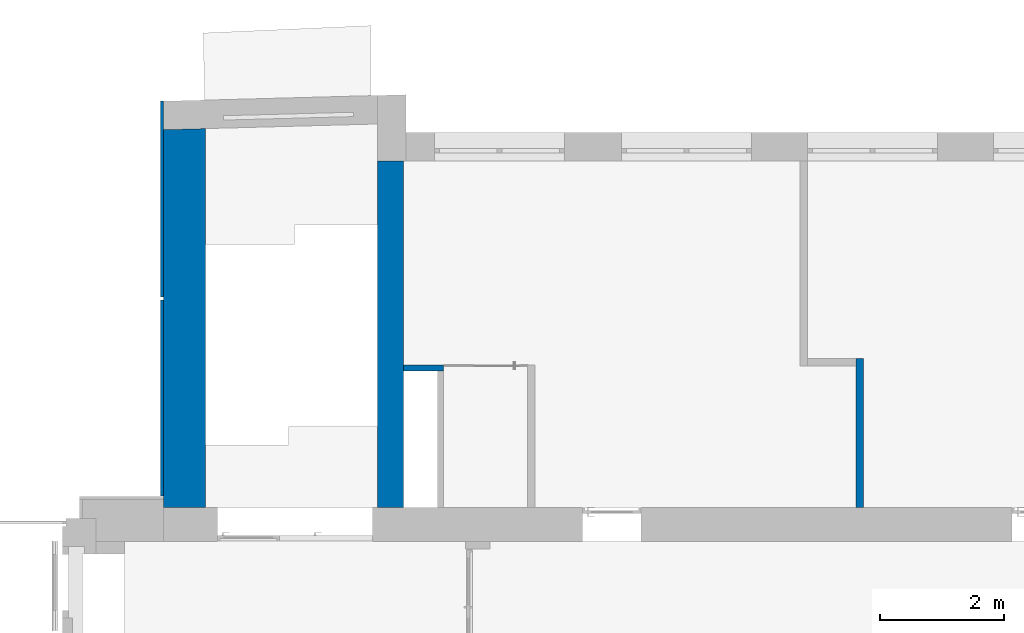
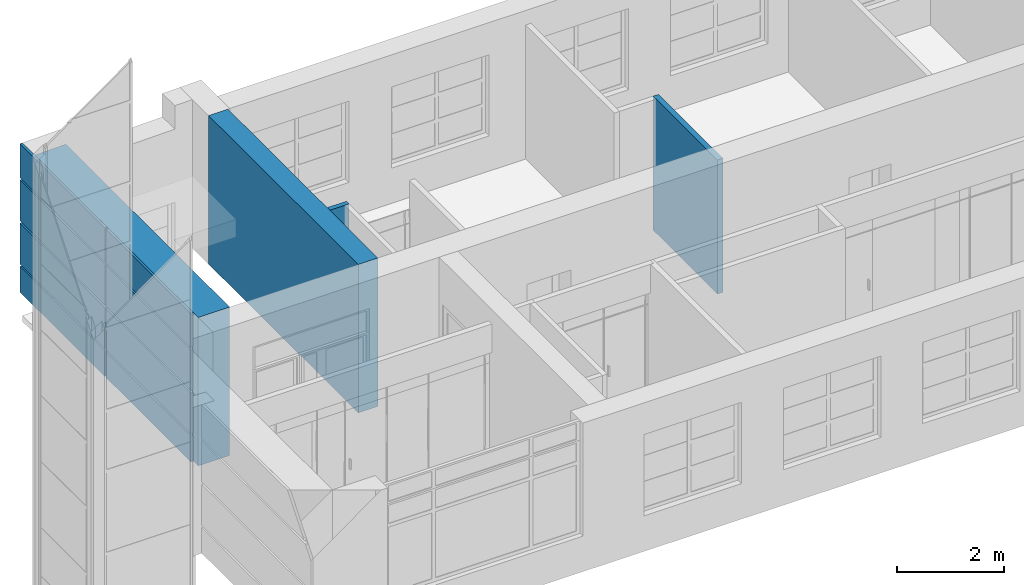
# One storey, part 44 of 66: 5 walls.
"""IFC2X3 building model written with IfcOpenShell, lengths in millimetres."""

from ifc_helpers import new_model, entity, si_unit, converted_unit, derived_unit, direction, frame, frame_2d, origin, origin_2d_with_axis, place, context, subcontext, project, spatial, polyline, rectangle, outline, extrude, clip, bounded_halfspace, material, layer, layer_set, layer_usage, type_object, element, save


model = new_model("IFC2X3")

# Units and contexts
model_context = context("Model", 3, precision=0.01, world=origin(), true_north=direction((6.12303176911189e-17, 1.0)))
body_context = subcontext(model_context, "Body", "Model", "MODEL_VIEW")
ifc_project = project(units=[si_unit("LENGTHUNIT", "METRE", prefix="MILLI"), si_unit("AREAUNIT", "SQUARE_METRE"), si_unit("VOLUMEUNIT", "CUBIC_METRE"), converted_unit("PLANEANGLEUNIT", "DEGREE", entity("IfcRatioMeasure", 0.0174532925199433), si_unit("PLANEANGLEUNIT", "RADIAN"), dimensions=[0, 0, 0, 0, 0, 0, 0]), si_unit("MASSUNIT", "GRAM", prefix="KILO"), derived_unit("MASSDENSITYUNIT", [(si_unit("MASSUNIT", "GRAM", prefix="KILO"), 1), (si_unit("LENGTHUNIT", "METRE"), -3)]), si_unit("TIMEUNIT", "SECOND"), si_unit("FREQUENCYUNIT", "HERTZ"), si_unit("THERMODYNAMICTEMPERATUREUNIT", "DEGREE_CELSIUS"), derived_unit("THERMALTRANSMITTANCEUNIT", [(si_unit("MASSUNIT", "GRAM", prefix="KILO"), 1), (si_unit("THERMODYNAMICTEMPERATUREUNIT", "KELVIN"), -1), (si_unit("TIMEUNIT", "SECOND"), -3)]), derived_unit("VOLUMETRICFLOWRATEUNIT", [(si_unit("LENGTHUNIT", "METRE"), 3), (si_unit("TIMEUNIT", "SECOND"), -1)]), si_unit("ELECTRICCURRENTUNIT", "AMPERE"), si_unit("ELECTRICVOLTAGEUNIT", "VOLT"), si_unit("POWERUNIT", "WATT"), si_unit("FORCEUNIT", "NEWTON", prefix="KILO"), si_unit("ILLUMINANCEUNIT", "LUX"), si_unit("LUMINOUSFLUXUNIT", "LUMEN"), si_unit("LUMINOUSINTENSITYUNIT", "CANDELA"), derived_unit("USERDEFINED", [(si_unit("MASSUNIT", "GRAM", prefix="KILO"), -1), (si_unit("LENGTHUNIT", "METRE"), -2), (si_unit("TIMEUNIT", "SECOND"), 3), (si_unit("LUMINOUSFLUXUNIT", "LUMEN"), 1)]), derived_unit("LINEARVELOCITYUNIT", [(si_unit("LENGTHUNIT", "METRE"), 1), (si_unit("TIMEUNIT", "SECOND"), -1)]), si_unit("PRESSUREUNIT", "PASCAL"), derived_unit("USERDEFINED", [(si_unit("LENGTHUNIT", "METRE"), -2), (si_unit("MASSUNIT", "GRAM", prefix="KILO"), 1), (si_unit("TIMEUNIT", "SECOND"), -2)])], contexts=[model_context])

# Site, building, storey
site_placement = place(None, frame((-151.875543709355, 2715.0, 0.0)))
site = spatial("IfcSite", under=ifc_project, at=site_placement, Name="Surface", CompositionType="ELEMENT")
building_placement = place(site_placement, origin())
building = spatial("IfcBuilding", under=site, at=building_placement, CompositionType="ELEMENT")
storey_placement = place(building_placement, frame((0.0, 0.0, 3350.0)))
storey = spatial("IfcBuildingStorey", under=building, at=storey_placement, Name="2 korrus", CompositionType="ELEMENT", Elevation=3350.00000000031)

# Walls
ifc_material_1 = material(Name="__Kips GN13_tava")
ifc_layer_1 = layer(ifc_material_1, 20.0)
ifc_material_2 = material(Name="Brick, Common")
ifc_layer_2 = layer(ifc_material_2, 380.0)
ifc_layer_3 = layer(ifc_material_1, 20.0)
ifc_layer_set_1 = layer_set([ifc_layer_1, ifc_layer_2, ifc_layer_3], Name="Basic Wall:SS-1_420mm")
ifc_layer_usage_1 = layer_usage(ifc_layer_set_1, "AXIS2", "NEGATIVE", 210.0)
wall_type_1 = type_object("IfcWallType", Name="Basic Wall:SS-1_420mm", PredefinedType="STANDARD", material=ifc_layer_set_1)
wall_1_placement = place(storey_placement, frame((4750.07439884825, 12150.0, 0.0), z_axis=(0.0, 0.0, 1.0), x_axis=(0.0, -1.0, 0.0)))
element("IfcWallStandardCase", 1, at=wall_1_placement, inside=storey, type_object=wall_type_1, material=ifc_layer_usage_1, Name="SEIN - 005", ObjectType="Basic Wall:SS-1_420mm", context=body_context, shape_type="SweptSolid", body=[
    extrude(rectangle(XDim=5590.0, YDim=420.0, at=frame_2d((2795.0, 4.2632564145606e-14), x_axis=(-1.0, 0.0))), origin(), (0.0, 0.0, 1.0), 3380.43203354),
])
ifc_material_3 = material(Name="__Tuuletõkkeplaat")
ifc_layer_4 = layer(ifc_material_3, 9.0)
ifc_material_4 = material(Name="__Soojustus EPS")
ifc_layer_5 = layer(ifc_material_4, 200.0)
ifc_layer_6 = layer(ifc_material_2, 450.0)
ifc_layer_7 = layer(ifc_material_1, 20.0)
ifc_layer_set_2 = layer_set([ifc_layer_4, ifc_layer_5, ifc_layer_6, ifc_layer_7], Name="Basic Wall:VS-2_olemasolev sein fassaadikassettidega")
ifc_layer_usage_2 = layer_usage(ifc_layer_set_2, "AXIS2", "NEGATIVE", 339.5)
wall_type_2 = type_object("IfcWallType", Name="Basic Wall:VS-2_olemasolev sein fassaadikassettidega", PredefinedType="STANDARD", material=ifc_layer_set_2)
wall_2_placement = place(storey_placement, frame((1430.5, 6560.0, 0.0), z_axis=(0.0, 0.0, 1.0), x_axis=(0.0, 1.0, 0.0)))
element("IfcWallStandardCase", 2, at=wall_2_placement, inside=storey, type_object=wall_type_2, material=ifc_layer_usage_2, Name="SEIN - 003", ObjectType="Basic Wall:VS-2_olemasolev sein fassaadikassettidega", context=body_context, shape_type="SweptSolid", body=[
    extrude(outline(polyline([(-447.833917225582, -4025.99641192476), (231.411305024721, -4025.99641192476), (391.750071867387, 1939.39965678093), (395.216100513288, 2068.3530849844), (-283.538765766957, 2086.59675514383), (-287.004794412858, 1957.64332694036), (-447.833917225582, -4025.99641192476)])), frame((2078.22520441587, 0.0, 0.0), z_axis=(0.0, 0.0, 1.0), x_axis=(-0.0268684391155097, 0.999638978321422, 0.0)), (0.0, 0.0, 1.0), 3380.43203354),
])
ifc_layer_8 = layer(ifc_material_1, 12.5)
ifc_layer_9 = layer(ifc_material_1, 12.5)
ifc_layer_10 = layer(ifc_material_4, 66.0)
ifc_layer_11 = layer(ifc_material_1, 12.5)
ifc_layer_12 = layer(ifc_material_1, 12.5)
ifc_layer_set_3 = layer_set([ifc_layer_8, ifc_layer_9, ifc_layer_10, ifc_layer_11, ifc_layer_12], Name="Basic Wall:SS-3_Kipssein tava ruumide vahel")
ifc_layer_usage_3 = layer_usage(ifc_layer_set_3, "AXIS2", "NEGATIVE", 58.0)
wall_type_3 = type_object("IfcWallType", Name="Basic Wall:SS-3_Kipssein tava ruumide vahel", PredefinedType="STANDARD", material=ifc_layer_set_3)
wall_3_placement = place(storey_placement, frame((12328.8459013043, 8960.0, 0.0), z_axis=(0.0, 0.0, 1.0), x_axis=(0.0, -1.0, 0.0)))
element("IfcWallStandardCase", 3, at=wall_3_placement, inside=storey, type_object=wall_type_3, material=ifc_layer_usage_3, Name="Basic Wall:SS-3_Kipssein tava ruumide vahel", ObjectType="Basic Wall:SS-3_Kipssein tava ruumide vahel", context=body_context, shape_type="SweptSolid", body=[
    extrude(rectangle(XDim=2399.99999999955, YDim=116.0, at=frame_2d((1199.99999999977, 2.48689957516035e-13), x_axis=(-1.0, 0.0))), origin(), (0.0, 0.0, 1.0), 3050.0),
])
ifc_material_5 = material(Name="__Helehall")
ifc_layer_13 = layer(ifc_material_5, 10.0)
ifc_material_6 = material(Name="__Kergblokk")
ifc_layer_14 = layer(ifc_material_6, 90.0)
ifc_layer_set_4 = layer_set([ifc_layer_13, ifc_layer_14], Name="Basic Wall:SS-6_Šahti sein EI-60")
ifc_layer_usage_4 = layer_usage(ifc_layer_set_4, "AXIS2", "NEGATIVE", 50.0)
wall_type_4 = type_object("IfcWallType", Name="Basic Wall:SS-6_Šahti sein EI-60", PredefinedType="STANDARD", material=ifc_layer_set_4)
wall_4_placement = place(storey_placement, frame((4960.07439884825, 8810.0, 0.0)))
element("IfcWallStandardCase", 4, at=wall_4_placement, inside=storey, type_object=wall_type_4, material=ifc_layer_usage_4, Name="Basic Wall:SS-6_Šahti sein EI-60", ObjectType="Basic Wall:SS-6_Šahti sein EI-60", context=body_context, shape_type="Clipping", body=[
    clip(extrude(rectangle(XDim=649.999999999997, YDim=99.9999999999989, at=frame_2d((324.999999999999, 1.63424829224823e-13), x_axis=(-1.0, 0.0))), origin(), (0.0, 0.0, 1.0), 3050.43203354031), bounded_halfspace(frame((0.737530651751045, -50.0, 3050.43203354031), z_axis=(0.0, 0.0, -1.0), x_axis=(0.0, 1.0, 0.0)), True, frame((0.737530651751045, -50.0, 3050.43203354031)), polyline([(0.0, 0.0), (549.262469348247, 0.0), (649.262469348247, 0.0), (649.262469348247, 100.0), (0.0, 100.0), (0.0, 0.0)]))),
])
ifc_material_7 = material(Name="Steel/Aluminium")
wall_type_5 = type_object("IfcWallType", Name="fassaad9.2:fassaad9.2", PredefinedType="NOTDEFINED", material=ifc_material_7)
wall_5_placement = place(storey_placement, frame((1041.0, 6741.71661374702, 0.0), z_axis=(0.0, 0.0, 1.0), x_axis=(0.0, 1.0, 0.0)))
element("IfcWall", 5, at=wall_5_placement, inside=storey, type_object=wall_type_5, material=ifc_material_7, Name="fassaad9.2:fassaad9.2", ObjectType="fassaad9.2:fassaad9.2", context=body_context, shape_type="SweptSolid", body=[
    extrude(rectangle(XDim=50.0, YDim=3162.49999999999, at=origin_2d_with_axis()), frame((4793.75, -25.0, 0.0), z_axis=(0.0, 0.0, 1.0), x_axis=(0.0, -1.0, 0.0)), (0.0, 0.0, 1.0), 585.115269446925),
    extrude(rectangle(XDim=50.0, YDim=3162.5, at=origin_2d_with_axis()), frame((1581.25000000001, -25.0, 0.0), z_axis=(0.0, 0.0, 1.0), x_axis=(0.0, -1.0, 0.0)), (0.0, 0.0, 1.0), 585.115269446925),
    extrude(rectangle(XDim=50.0, YDim=3162.5, at=frame_2d((-1.36779476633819e-13, 5.6843418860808e-13), x_axis=(1.0, 0.0))), frame((1581.25000000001, -25.0, 635.115269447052), z_axis=(0.0, 0.0, 1.0), x_axis=(0.0, -1.0, 0.0)), (0.0, 0.0, 1.0), 934.999999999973),
    extrude(rectangle(XDim=50.0, YDim=3162.5, at=frame_2d((0.0, 1.02318153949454e-12), x_axis=(1.0, 0.0))), frame((4793.75, -25.0, 635.115269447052), z_axis=(0.0, 0.0, 1.0), x_axis=(0.0, -1.0, 0.0)), (0.0, 0.0, 1.0), 934.999999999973),
    extrude(rectangle(XDim=50.0, YDim=3162.5, at=origin_2d_with_axis()), frame((1581.25, -25.0, 2605.11526944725), z_axis=(0.0, 0.0, 1.0), x_axis=(0.0, -1.0, 0.0)), (0.0, 0.0, 1.0), 774.884730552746),
    extrude(rectangle(XDim=50.0, YDim=3162.5, at=origin_2d_with_axis()), frame((4793.75, -25.0, 2605.11526944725), z_axis=(0.0, 0.0, 1.0), x_axis=(0.0, -1.0, 0.0)), (0.0, 0.0, 1.0), 774.884730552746),
    extrude(rectangle(XDim=50.0, YDim=3162.5, at=frame_2d((6.92779167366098e-14, -5.6843418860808e-13), x_axis=(1.0, 0.0))), frame((1581.25000000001, -25.0, 1620.11526944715), z_axis=(0.0, 0.0, 1.0), x_axis=(0.0, -1.0, 0.0)), (0.0, 0.0, 1.0), 934.999999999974),
    extrude(rectangle(XDim=50.0, YDim=3162.5, at=frame_2d((-6.92779167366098e-14, 0.0), x_axis=(1.0, 0.0))), frame((4793.75, -25.0, 1620.11526944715), z_axis=(0.0, 0.0, 1.0), x_axis=(0.0, -1.0, 0.0)), (0.0, 0.0, 1.0), 934.999999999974),
])

save(model, "model.ifc")
